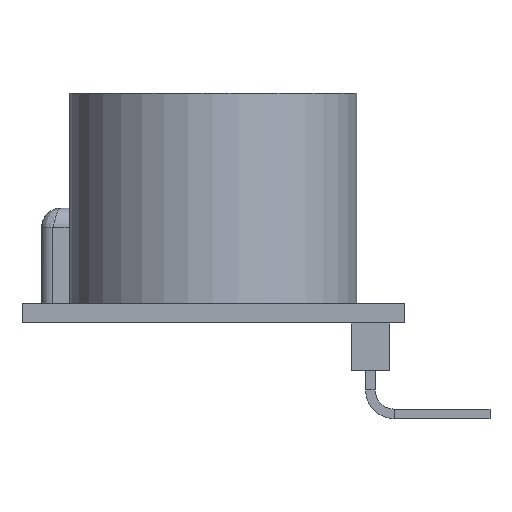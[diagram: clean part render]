
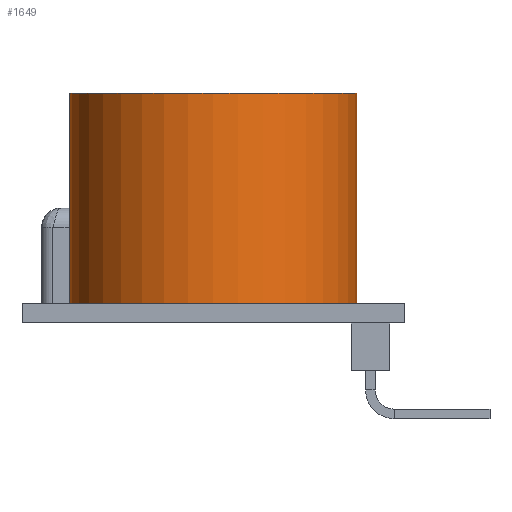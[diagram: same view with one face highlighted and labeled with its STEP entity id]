
A CAD part, left-side view. The second image highlights one B-rep face of the part: STEP entity #1649.
In plain terms, the highlighted cylindrical face has radius 7.5 mm (diameter 15 mm), a full revolution.
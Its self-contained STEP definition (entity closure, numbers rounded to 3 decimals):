
#141 = PLANE('',#142);
#142 = AXIS2_PLACEMENT_3D('',#143,#144,#145);
#143 = CARTESIAN_POINT('',(0.,0.,1.));
#144 = DIRECTION('',(-0.,-0.,-1.));
#145 = DIRECTION('',(-1.,0.,0.));
#733 = EDGE_CURVE('',#734,#734,#736,.T.);
#734 = VERTEX_POINT('',#735);
#735 = CARTESIAN_POINT('',(-5.82,0.,1.));
#736 = SURFACE_CURVE('',#737,(#742,#753),.PCURVE_S1.);
#737 = CIRCLE('',#738,7.5);
#738 = AXIS2_PLACEMENT_3D('',#739,#740,#741);
#739 = CARTESIAN_POINT('',(-13.32,0.,1.));
#740 = DIRECTION('',(0.,0.,1.));
#741 = DIRECTION('',(1.,0.,0.));
#742 = PCURVE('',#141,#743);
#743 = DEFINITIONAL_REPRESENTATION('',(#744),#752);
#744 = ( BOUNDED_CURVE() B_SPLINE_CURVE(2,(#745,#746,#747,#748,#749,#750
,#751),.UNSPECIFIED.,.T.,.F.) B_SPLINE_CURVE_WITH_KNOTS((1,2,2,2,2,1),(
    -2.094,0.,2.094,4.189,6.283,
8.378),.UNSPECIFIED.) CURVE() GEOMETRIC_REPRESENTATION_ITEM() 
RATIONAL_B_SPLINE_CURVE((1.,0.5,1.,0.5,1.,0.5,1.)) REPRESENTATION_ITEM(
  '') );
#745 = CARTESIAN_POINT('',(5.82,0.));
#746 = CARTESIAN_POINT('',(5.82,12.99));
#747 = CARTESIAN_POINT('',(17.07,6.495));
#748 = CARTESIAN_POINT('',(28.32,0.));
#749 = CARTESIAN_POINT('',(17.07,-6.495));
#750 = CARTESIAN_POINT('',(5.82,-12.99));
#751 = CARTESIAN_POINT('',(5.82,0.));
#752 = ( GEOMETRIC_REPRESENTATION_CONTEXT(2) 
PARAMETRIC_REPRESENTATION_CONTEXT() REPRESENTATION_CONTEXT('2D SPACE',''
  ) );
#753 = PCURVE('',#754,#759);
#754 = CYLINDRICAL_SURFACE('',#755,7.5);
#755 = AXIS2_PLACEMENT_3D('',#756,#757,#758);
#756 = CARTESIAN_POINT('',(-13.32,0.,1.));
#757 = DIRECTION('',(-0.,-0.,-1.));
#758 = DIRECTION('',(1.,0.,0.));
#759 = DEFINITIONAL_REPRESENTATION('',(#760),#764);
#760 = LINE('',#761,#762);
#761 = CARTESIAN_POINT('',(-0.,0.));
#762 = VECTOR('',#763,1.);
#763 = DIRECTION('',(-1.,0.));
#764 = ( GEOMETRIC_REPRESENTATION_CONTEXT(2) 
PARAMETRIC_REPRESENTATION_CONTEXT() REPRESENTATION_CONTEXT('2D SPACE',''
  ) );
#1649 = ADVANCED_FACE('',(#1650),#754,.T.);
#1650 = FACE_BOUND('',#1651,.F.);
#1651 = EDGE_LOOP('',(#1652,#1675,#1702,#1703));
#1652 = ORIENTED_EDGE('',*,*,#1653,.T.);
#1653 = EDGE_CURVE('',#734,#1654,#1656,.T.);
#1654 = VERTEX_POINT('',#1655);
#1655 = CARTESIAN_POINT('',(-5.82,0.,12.));
#1656 = SEAM_CURVE('',#1657,(#1661,#1668),.PCURVE_S1.);
#1657 = LINE('',#1658,#1659);
#1658 = CARTESIAN_POINT('',(-5.82,0.,1.));
#1659 = VECTOR('',#1660,1.);
#1660 = DIRECTION('',(0.,0.,1.));
#1661 = PCURVE('',#754,#1662);
#1662 = DEFINITIONAL_REPRESENTATION('',(#1663),#1667);
#1663 = LINE('',#1664,#1665);
#1664 = CARTESIAN_POINT('',(-0.,0.));
#1665 = VECTOR('',#1666,1.);
#1666 = DIRECTION('',(-0.,-1.));
#1667 = ( GEOMETRIC_REPRESENTATION_CONTEXT(2) 
PARAMETRIC_REPRESENTATION_CONTEXT() REPRESENTATION_CONTEXT('2D SPACE',''
  ) );
#1668 = PCURVE('',#754,#1669);
#1669 = DEFINITIONAL_REPRESENTATION('',(#1670),#1674);
#1670 = LINE('',#1671,#1672);
#1671 = CARTESIAN_POINT('',(-6.283,0.));
#1672 = VECTOR('',#1673,1.);
#1673 = DIRECTION('',(-0.,-1.));
#1674 = ( GEOMETRIC_REPRESENTATION_CONTEXT(2) 
PARAMETRIC_REPRESENTATION_CONTEXT() REPRESENTATION_CONTEXT('2D SPACE',''
  ) );
#1675 = ORIENTED_EDGE('',*,*,#1676,.T.);
#1676 = EDGE_CURVE('',#1654,#1654,#1677,.T.);
#1677 = SURFACE_CURVE('',#1678,(#1683,#1690),.PCURVE_S1.);
#1678 = CIRCLE('',#1679,7.5);
#1679 = AXIS2_PLACEMENT_3D('',#1680,#1681,#1682);
#1680 = CARTESIAN_POINT('',(-13.32,0.,12.));
#1681 = DIRECTION('',(0.,0.,1.));
#1682 = DIRECTION('',(1.,0.,0.));
#1683 = PCURVE('',#754,#1684);
#1684 = DEFINITIONAL_REPRESENTATION('',(#1685),#1689);
#1685 = LINE('',#1686,#1687);
#1686 = CARTESIAN_POINT('',(-0.,-11.));
#1687 = VECTOR('',#1688,1.);
#1688 = DIRECTION('',(-1.,0.));
#1689 = ( GEOMETRIC_REPRESENTATION_CONTEXT(2) 
PARAMETRIC_REPRESENTATION_CONTEXT() REPRESENTATION_CONTEXT('2D SPACE',''
  ) );
#1690 = PCURVE('',#1691,#1696);
#1691 = PLANE('',#1692);
#1692 = AXIS2_PLACEMENT_3D('',#1693,#1694,#1695);
#1693 = CARTESIAN_POINT('',(-13.32,0.,12.));
#1694 = DIRECTION('',(0.,0.,1.));
#1695 = DIRECTION('',(1.,0.,0.));
#1696 = DEFINITIONAL_REPRESENTATION('',(#1697),#1701);
#1697 = CIRCLE('',#1698,7.5);
#1698 = AXIS2_PLACEMENT_2D('',#1699,#1700);
#1699 = CARTESIAN_POINT('',(0.,0.));
#1700 = DIRECTION('',(1.,0.));
#1701 = ( GEOMETRIC_REPRESENTATION_CONTEXT(2) 
PARAMETRIC_REPRESENTATION_CONTEXT() REPRESENTATION_CONTEXT('2D SPACE',''
  ) );
#1702 = ORIENTED_EDGE('',*,*,#1653,.F.);
#1703 = ORIENTED_EDGE('',*,*,#733,.F.);
